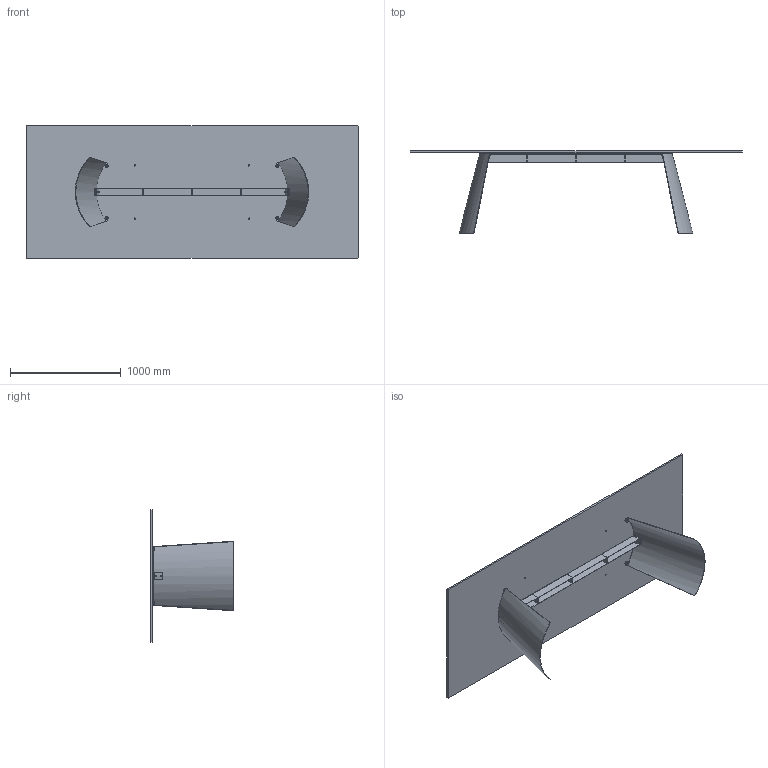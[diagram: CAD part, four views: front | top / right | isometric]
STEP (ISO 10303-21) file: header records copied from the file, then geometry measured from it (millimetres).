
FILE_DESCRIPTION (( 'STEP AP203' ), '1' );
FILE_NAME ('DN24G.STEP', '2024-08-07T15:13:29', ( '' ), ( '' ), 'SwSTEP 2.0', 'SolidWorks 2022', '' );
FILE_SCHEMA (( 'CONFIG_CONTROL_DESIGN' ));
Length unit declared in the file: millimetre
Products named in the file (14): rondella M8X24; rondella M8_8X16; DNB300000_01-02-GAMBA DORIAN; GRANO M8X35_barra; 434070-00-PIEDINO TPV GOMMA NERO D. 30x8max18; C2XCRXX-00-Piani Rettangolari Cristallo_24 3000x1200; feltro Ø12x3; SDNB300000-02-GAMBA X TRASP; nut_M8_M8; DNB300000_03-02-PIASTRINA; DNBX00000-01-DORIAN TRAVERSO LXXXX PER TAVOLO LX00_L.1770; DNB400000-02-ASSIEME STRUTTURA COMPLETA_L.1770; DN24G; DNB300000_02-02-RISCONTRO STANGONE CENTRALE
Assembly tree (37 placements, depth 4):
  DN24G
    C2XCRXX-00-Piani Rettangolari Cristallo_24 3000x1200
    DNB400000-02-ASSIEME STRUTTURA COMPLETA_L.1770
      SDNB300000-02-GAMBA X TRASP  x2
        DNB300000_01-02-GAMBA DORIAN
        DNB300000_02-02-RISCONTRO STANGONE CENTRALE
        DNB300000_03-02-PIASTRINA
      DNBX00000-01-DORIAN TRAVERSO LXXXX PER TAVOLO LX00_L.1770
    434070-00-PIEDINO TPV GOMMA NERO D. 30x8max18  x4
    nut_M8_M8  x8
    rondella M8X24  x4
    GRANO M8X35_barra  x4
    rondella M8_8X16  x4
    feltro Ø12x3  x4
Bounding box: 3000 x 745 x 1200 mm (x, y, z)
Volume: 60121342.6 mm3; surface area: 10113186.5 mm2
Topology: 47 solids, 47 shells, 618 faces, 1444 edges, 920 vertices
Faces by surface type: plane 266, cylinder 174, torus 80, cone 80, bspline 18
Entity records: 11305 total; most frequent: CARTESIAN_POINT 2201, DIRECTION 1493, ORIENTED_EDGE 1420, EDGE_CURVE 710, AXIS2_PLACEMENT_3D 528, VERTEX_POINT 464, LINE 437, VECTOR 437
